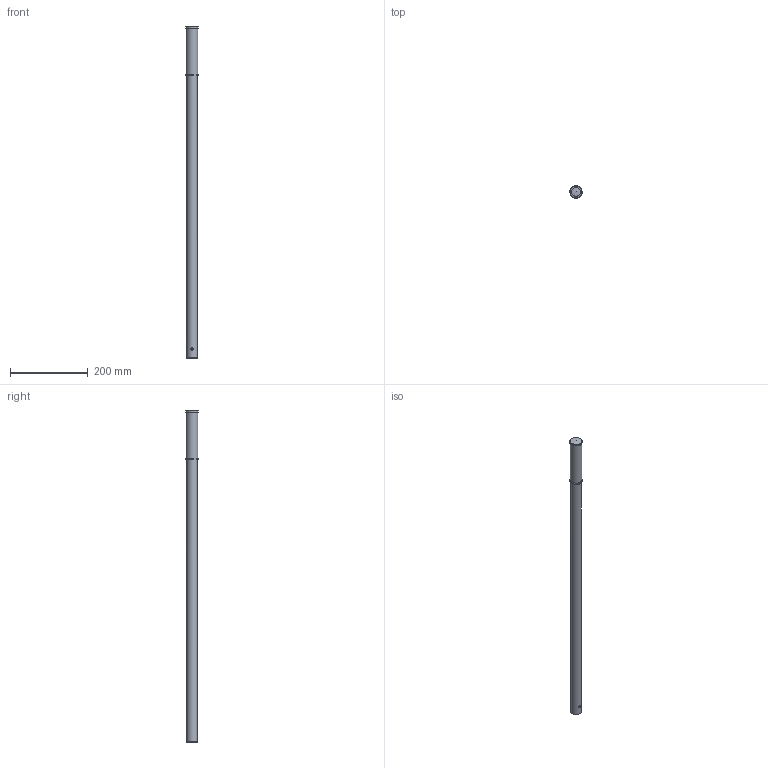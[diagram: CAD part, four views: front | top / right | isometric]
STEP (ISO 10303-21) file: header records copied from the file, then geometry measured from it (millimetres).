
FILE_DESCRIPTION((''),'2;1');
FILE_NAME('G:\HV_HYDRAULIC\AZIENDA_HV_HYDRAULIC\ARCHIVIO_DISEGNI\5_PRODOTTI_FINITI\5_LEVE\6800_LEVE\6800_SPECIALI\6800.0011_LT_27x850_dzb_(HV)\6800.0011.stp','2024-09-17T08:42:13',('christian.scardovi'),(''),'Autodesk Inventor 2013','Autodesk Inventor 2013','');
FILE_SCHEMA(('AUTOMOTIVE_DESIGN { 1 0 10303 214 1 1 1 1 }'));
Length unit declared in the file: millimetre
Products named in the file (1): 6800.0011
Bounding box: 31.93 x 31.93 x 853.4 mm (x, y, z)
Volume: 182953.5 mm3; surface area: 134067 mm2
Topology: 1 solids, 1 shells, 19 faces, 39 edges, 23 vertices
Faces by surface type: cylinder 6, cone 5, torus 5, plane 3
Full cylindrical faces by diameter (mm): 6 x1, 22 x1, 27 x1, 30 x1, 32 x2
Entity records: 472 total; most frequent: CARTESIAN_POINT 93, DIRECTION 74, ORIENTED_EDGE 38, AXIS2_PLACEMENT_3D 37, EDGE_LOOP 36, STYLED_ITEM 20, VERTEX_POINT 19, EDGE_CURVE 19
